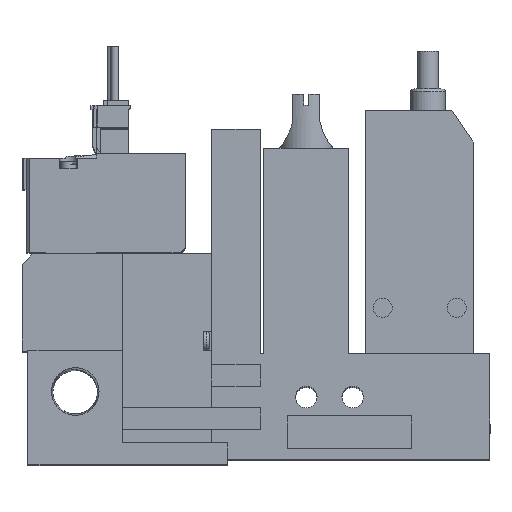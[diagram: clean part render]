
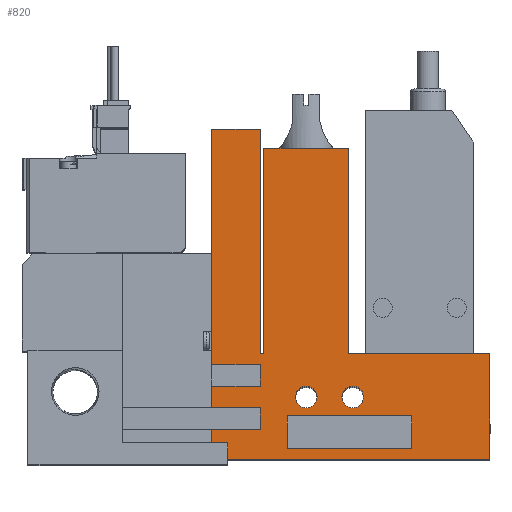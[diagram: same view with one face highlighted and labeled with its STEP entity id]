
A CAD part, top view. The second image highlights one B-rep face of the part: STEP entity #820.
In plain terms, the highlighted planar face has unit normal (0, 0, 1).
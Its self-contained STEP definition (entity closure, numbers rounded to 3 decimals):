
#820=ADVANCED_FACE('',(#1633,#1634,#1635,#1636),#1637,.T.);
#1633=FACE_OUTER_BOUND('',#2802,.T.);
#1634=FACE_BOUND('',#2803,.T.);
#1635=FACE_BOUND('',#2804,.T.);
#1636=FACE_BOUND('',#2805,.T.);
#1637=PLANE('',#2806);
#2802=EDGE_LOOP('',(#5669,#5670,#5671,#5672,#5673,#5674,#5675,#5676,#5677,#5678,#5679,#5680,#5681,#5682,#5683,#5684,#5685,#5686));
#2803=EDGE_LOOP('',(#5687,#5688,#5689,#5690));
#2804=EDGE_LOOP('',(#5691));
#2805=EDGE_LOOP('',(#5692));
#2806=AXIS2_PLACEMENT_3D('',#5693,#5694,#5695);
#5669=ORIENTED_EDGE('',*,*,#7971,.T.);
#5670=ORIENTED_EDGE('',*,*,#7972,.T.);
#5671=ORIENTED_EDGE('',*,*,#7973,.T.);
#5672=ORIENTED_EDGE('',*,*,#7974,.T.);
#5673=ORIENTED_EDGE('',*,*,#7975,.T.);
#5674=ORIENTED_EDGE('',*,*,#7976,.T.);
#5675=ORIENTED_EDGE('',*,*,#7977,.T.);
#5676=ORIENTED_EDGE('',*,*,#7978,.T.);
#5677=ORIENTED_EDGE('',*,*,#7979,.T.);
#5678=ORIENTED_EDGE('',*,*,#7980,.T.);
#5679=ORIENTED_EDGE('',*,*,#7981,.T.);
#5680=ORIENTED_EDGE('',*,*,#7982,.T.);
#5681=ORIENTED_EDGE('',*,*,#7961,.T.);
#5682=ORIENTED_EDGE('',*,*,#7983,.T.);
#5683=ORIENTED_EDGE('',*,*,#7984,.T.);
#5684=ORIENTED_EDGE('',*,*,#7985,.T.);
#5685=ORIENTED_EDGE('',*,*,#7986,.T.);
#5686=ORIENTED_EDGE('',*,*,#7987,.T.);
#5687=ORIENTED_EDGE('',*,*,#7988,.T.);
#5688=ORIENTED_EDGE('',*,*,#7989,.T.);
#5689=ORIENTED_EDGE('',*,*,#7990,.T.);
#5690=ORIENTED_EDGE('',*,*,#7991,.T.);
#5691=ORIENTED_EDGE('',*,*,#7992,.T.);
#5692=ORIENTED_EDGE('',*,*,#7993,.T.);
#5693=CARTESIAN_POINT('',(0.0,0.0,10.0));
#5694=DIRECTION('',(0.0,0.0,1.0));
#5695=DIRECTION('',(1.0,0.0,0.0));
#7961=EDGE_CURVE('',#9645,#9643,#9646,.T.);
#7971=EDGE_CURVE('',#9664,#9665,#9666,.T.);
#7972=EDGE_CURVE('',#9665,#9667,#9668,.T.);
#7973=EDGE_CURVE('',#9667,#9669,#9670,.T.);
#7974=EDGE_CURVE('',#9669,#9671,#9672,.T.);
#7975=EDGE_CURVE('',#9671,#9673,#9674,.T.);
#7976=EDGE_CURVE('',#9673,#9675,#9676,.T.);
#7977=EDGE_CURVE('',#9675,#9677,#9678,.T.);
#7978=EDGE_CURVE('',#9677,#9679,#9680,.T.);
#7979=EDGE_CURVE('',#9679,#9681,#9682,.T.);
#7980=EDGE_CURVE('',#9681,#9683,#9684,.T.);
#7981=EDGE_CURVE('',#9683,#9685,#9686,.T.);
#7982=EDGE_CURVE('',#9685,#9645,#9687,.T.);
#7983=EDGE_CURVE('',#9643,#9688,#9689,.T.);
#7984=EDGE_CURVE('',#9688,#9690,#9691,.T.);
#7985=EDGE_CURVE('',#9690,#9692,#9693,.T.);
#7986=EDGE_CURVE('',#9692,#9694,#9695,.T.);
#7987=EDGE_CURVE('',#9694,#9664,#9696,.T.);
#7988=EDGE_CURVE('',#9697,#9698,#9699,.T.);
#7989=EDGE_CURVE('',#9698,#9700,#9701,.T.);
#7990=EDGE_CURVE('',#9700,#9702,#9703,.T.);
#7991=EDGE_CURVE('',#9702,#9697,#9704,.T.);
#7992=EDGE_CURVE('',#9705,#9705,#9706,.T.);
#7993=EDGE_CURVE('',#9707,#9707,#9708,.T.);
#9643=VERTEX_POINT('',#12345);
#9645=VERTEX_POINT('',#12348);
#9646=LINE('',#12349,#12350);
#9664=VERTEX_POINT('',#12377);
#9665=VERTEX_POINT('',#12378);
#9666=LINE('',#12379,#12380);
#9667=VERTEX_POINT('',#12381);
#9668=LINE('',#12382,#12383);
#9669=VERTEX_POINT('',#12384);
#9670=LINE('',#12385,#12386);
#9671=VERTEX_POINT('',#12387);
#9672=LINE('',#12388,#12389);
#9673=VERTEX_POINT('',#12390);
#9674=LINE('',#12391,#12392);
#9675=VERTEX_POINT('',#12393);
#9676=LINE('',#12394,#12395);
#9677=VERTEX_POINT('',#12396);
#9678=LINE('',#12397,#12398);
#9679=VERTEX_POINT('',#12399);
#9680=LINE('',#12400,#12401);
#9681=VERTEX_POINT('',#12402);
#9682=LINE('',#12403,#12404);
#9683=VERTEX_POINT('',#12405);
#9684=LINE('',#12406,#12407);
#9685=VERTEX_POINT('',#12408);
#9686=LINE('',#12409,#12410);
#9687=LINE('',#12411,#12412);
#9688=VERTEX_POINT('',#12413);
#9689=LINE('',#12414,#12415);
#9690=VERTEX_POINT('',#12416);
#9691=LINE('',#12417,#12418);
#9692=VERTEX_POINT('',#12419);
#9693=LINE('',#12420,#12421);
#9694=VERTEX_POINT('',#12422);
#9695=LINE('',#12423,#12424);
#9696=LINE('',#12425,#12426);
#9697=VERTEX_POINT('',#12427);
#9698=VERTEX_POINT('',#12428);
#9699=LINE('',#12429,#12430);
#9700=VERTEX_POINT('',#12431);
#9701=LINE('',#12432,#12433);
#9702=VERTEX_POINT('',#12434);
#9703=LINE('',#12435,#12436);
#9704=LINE('',#12437,#12438);
#9705=VERTEX_POINT('',#12439);
#9706=CIRCLE('',#12440,2.0);
#9707=VERTEX_POINT('',#12441);
#9708=CIRCLE('',#12442,2.0);
#12345=CARTESIAN_POINT('',(60.45,57.5,10.0));
#12348=CARTESIAN_POINT('',(60.45,19.5,10.0));
#12349=CARTESIAN_POINT('',(60.45,19.5,10.0));
#12350=VECTOR('',#14631,1.0);
#12377=CARTESIAN_POINT('',(35.1,61.0,10.0));
#12378=CARTESIAN_POINT('',(35.1,17.5,10.0));
#12379=CARTESIAN_POINT('',(35.1,61.0,10.0));
#12380=VECTOR('',#14641,1.0);
#12381=CARTESIAN_POINT('',(44.1,17.5,10.0));
#12382=CARTESIAN_POINT('',(0.0,17.5,10.0));
#12383=VECTOR('',#14642,1.0);
#12384=CARTESIAN_POINT('',(44.1,13.5,10.0));
#12385=CARTESIAN_POINT('',(44.1,0.0,10.0));
#12386=VECTOR('',#14643,1.0);
#12387=CARTESIAN_POINT('',(35.1,13.5,10.0));
#12388=CARTESIAN_POINT('',(0.0,13.5,10.0));
#12389=VECTOR('',#14644,1.0);
#12390=CARTESIAN_POINT('',(35.1,9.5,10.0));
#12391=CARTESIAN_POINT('',(35.1,0.0,10.0));
#12392=VECTOR('',#14645,1.0);
#12393=CARTESIAN_POINT('',(44.1,9.5,10.0));
#12394=CARTESIAN_POINT('',(0.0,9.5,10.0));
#12395=VECTOR('',#14646,1.0);
#12396=CARTESIAN_POINT('',(44.1,5.5,10.0));
#12397=CARTESIAN_POINT('',(44.1,0.0,10.0));
#12398=VECTOR('',#14647,1.0);
#12399=CARTESIAN_POINT('',(35.1,5.5,10.0));
#12400=CARTESIAN_POINT('',(0.0,5.5,10.0));
#12401=VECTOR('',#14648,1.0);
#12402=CARTESIAN_POINT('',(35.1,0.0,10.0));
#12403=CARTESIAN_POINT('',(35.1,0.0,10.0));
#12404=VECTOR('',#14649,1.0);
#12405=CARTESIAN_POINT('',(86.6,0.0,10.0));
#12406=CARTESIAN_POINT('',(18.6,0.0,10.0));
#12407=VECTOR('',#14650,1.0);
#12408=CARTESIAN_POINT('',(86.6,19.5,10.0));
#12409=CARTESIAN_POINT('',(86.6,0.0,10.0));
#12410=VECTOR('',#14651,1.0);
#12411=CARTESIAN_POINT('',(86.6,19.5,10.0));
#12412=VECTOR('',#14652,1.0);
#12413=CARTESIAN_POINT('',(44.75,57.5,10.0));
#12414=CARTESIAN_POINT('',(60.45,57.5,10.0));
#12415=VECTOR('',#14653,1.0);
#12416=CARTESIAN_POINT('',(44.75,19.5,10.0));
#12417=CARTESIAN_POINT('',(44.75,57.5,10.0));
#12418=VECTOR('',#14654,1.0);
#12419=CARTESIAN_POINT('',(44.1,19.5,10.0));
#12420=CARTESIAN_POINT('',(44.75,19.5,10.0));
#12421=VECTOR('',#14655,1.0);
#12422=CARTESIAN_POINT('',(44.1,61.0,10.0));
#12423=CARTESIAN_POINT('',(44.1,19.5,10.0));
#12424=VECTOR('',#14656,1.0);
#12425=CARTESIAN_POINT('',(44.1,61.0,10.0));
#12426=VECTOR('',#14657,1.0);
#12427=CARTESIAN_POINT('',(49.1,2.0,10.0));
#12428=CARTESIAN_POINT('',(49.1,8.0,10.0));
#12429=CARTESIAN_POINT('',(49.1,0.0,10.0));
#12430=VECTOR('',#14658,1.0);
#12431=CARTESIAN_POINT('',(72.1,8.0,10.0));
#12432=CARTESIAN_POINT('',(0.0,8.0,10.0));
#12433=VECTOR('',#14659,1.0);
#12434=CARTESIAN_POINT('',(72.1,2.0,10.0));
#12435=CARTESIAN_POINT('',(72.1,0.0,10.0));
#12436=VECTOR('',#14660,1.0);
#12437=CARTESIAN_POINT('',(0.0,2.0,10.0));
#12438=VECTOR('',#14661,1.0);
#12439=CARTESIAN_POINT('',(54.6,11.5,10.0));
#12440=AXIS2_PLACEMENT_3D('',#14662,#14663,#14664);
#12441=CARTESIAN_POINT('',(63.2,11.5,10.0));
#12442=AXIS2_PLACEMENT_3D('',#14665,#14666,#14667);
#14631=DIRECTION('',(0.0,1.0,0.0));
#14641=DIRECTION('',(0.0,-1.0,0.0));
#14642=DIRECTION('',(1.0,0.0,0.0));
#14643=DIRECTION('',(0.0,-1.0,0.0));
#14644=DIRECTION('',(-1.0,0.0,0.0));
#14645=DIRECTION('',(0.0,-1.0,0.0));
#14646=DIRECTION('',(1.0,0.0,0.0));
#14647=DIRECTION('',(0.0,-1.0,0.0));
#14648=DIRECTION('',(-1.0,0.0,0.0));
#14649=DIRECTION('',(0.0,-1.0,0.0));
#14650=DIRECTION('',(1.0,0.0,0.0));
#14651=DIRECTION('',(0.0,1.0,0.0));
#14652=DIRECTION('',(-1.0,0.0,0.0));
#14653=DIRECTION('',(-1.0,0.0,0.0));
#14654=DIRECTION('',(0.0,-1.0,0.0));
#14655=DIRECTION('',(-1.0,0.0,0.0));
#14656=DIRECTION('',(0.0,1.0,0.0));
#14657=DIRECTION('',(-1.0,0.0,0.0));
#14658=DIRECTION('',(0.0,1.0,0.0));
#14659=DIRECTION('',(1.0,0.0,0.0));
#14660=DIRECTION('',(0.0,-1.0,0.0));
#14661=DIRECTION('',(-1.0,0.0,0.0));
#14662=CARTESIAN_POINT('',(52.6,11.5,10.0));
#14663=DIRECTION('',(0.0,0.0,-1.0));
#14664=DIRECTION('',(1.0,0.0,0.0));
#14665=CARTESIAN_POINT('',(61.2,11.5,10.0));
#14666=DIRECTION('',(0.0,0.0,-1.0));
#14667=DIRECTION('',(1.0,0.0,0.0));
